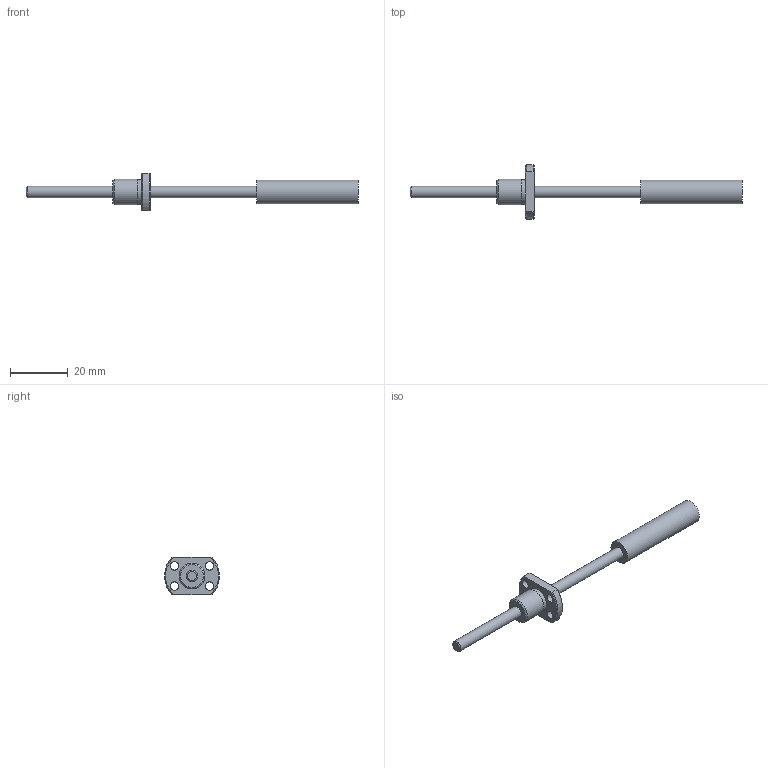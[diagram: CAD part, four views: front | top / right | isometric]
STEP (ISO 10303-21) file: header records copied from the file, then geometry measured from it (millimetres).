
FILE_DESCRIPTION(/* description */ ('STEP AP214'),/* implementation_level */ '2;1');
FILE_NAME(/* name */ 'SRT0401K-76R115C10A0X(A30None0X)',/* time_stamp */ '2026-08-04T17:46:31+02:00',/* author */ ('License CC BY-ND 4.0'),/* organization */ ('CADENAS'),/* preprocessor_version */ 'ST-DEVELOPER v20',/* originating_system */ 'PARTsolutions',/* authorisation */ ' ');
FILE_SCHEMA (('AUTOMOTIVE_DESIGN {1 0 10303 214 3 1 1}'));
Length unit declared in the file: millimetre
Products named in the file (3): SRT0401K-76R115C10A0X(A30None0X); 2ANone115; SR0401K_nut
Assembly tree (2 placements, depth 2):
  SRT0401K-76R115C10A0X(A30None0X)
    2ANone115
    SR0401K_nut
Bounding box: 115 x 18.93 x 13 mm (x, y, z)
Volume: 3908.6 mm3; surface area: 3095.1 mm2
Topology: 2 solids, 2 shells, 26 faces, 55 edges, 36 vertices
Faces by surface type: cylinder 11, plane 9, cone 6
Full cylindrical faces by diameter (mm): 2.9 x4, 4 x2, 8.2 x1, 8.6 x1, 9 x1
Entity records: 759 total; most frequent: CARTESIAN_POINT 133, DIRECTION 122, ORIENTED_EDGE 88, AXIS2_PLACEMENT_3D 57, EDGE_LOOP 50, FACE_BOUND 50, EDGE_CURVE 44, VERTEX_POINT 36
